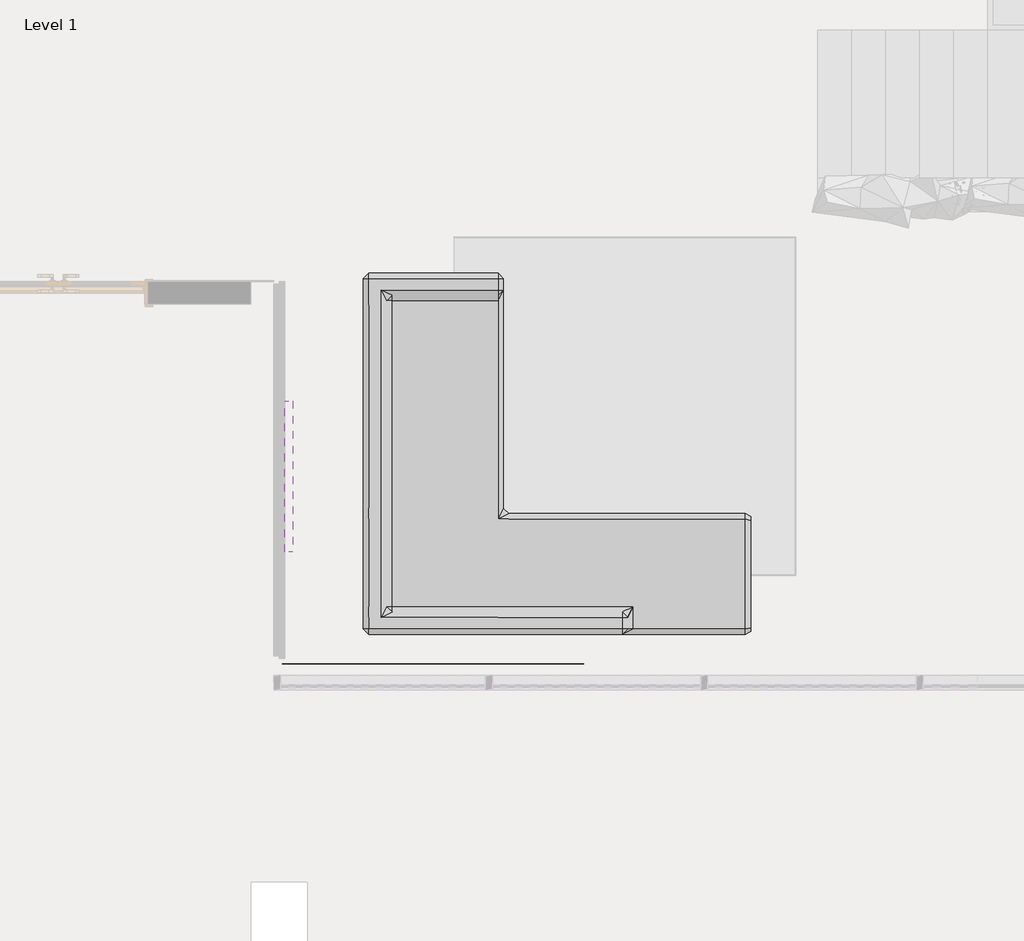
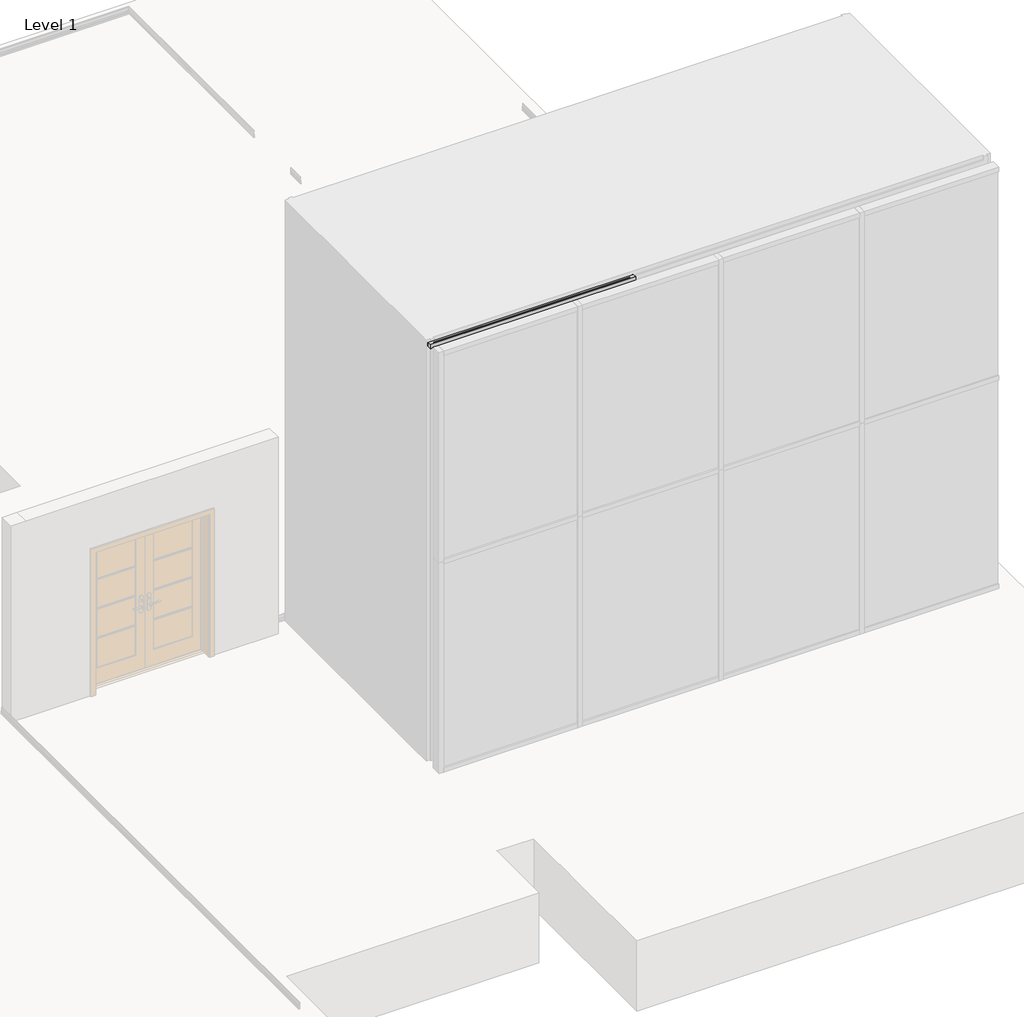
# One storey, part 4 of 6: 3 geographic elements.
"""IFC4 building model written with IfcOpenShell, lengths in millimetres."""

from ifc_helpers import new_model, si_unit, origin, place, context, project, spatial, transform, mapped, element, save
from components import enscape_assetdefinition_curtain_001_enscape_assetdefinition_2034166f, enscape_assetdefinition_framed_picture_003_enscape_f1a1e88f, enscape_assetdefinition_sofa_039_l_shape_enscape_ea6e479c

model = new_model("IFC4")

# Units and contexts
model_context = context("Model", 3, world=origin())
ifc_project = project(units=[si_unit("LENGTHUNIT", "METRE", prefix="MILLI")], contexts=[model_context])

# Site, building, storey
site = spatial("IfcSite", under=ifc_project)
building = spatial("IfcBuilding", under=site)
storey = spatial("IfcBuildingStorey", under=building, Name="Level 1", Elevation=1000.0)

# Geographic elements
placement = place(None, origin())
enscape_assetdefinition_curtain_001_enscape_assetdefinition_shape = enscape_assetdefinition_curtain_001_enscape_assetdefinition_2034166f(model_context)
element("IfcGeographicElement", 1, ObjectType="Enscape AssetDefinition - Curtain 001 : Enscape AssetDefinition - Curtain 001 2", at=placement, inside=storey, context=model_context, shape_type="MappedRepresentation", body=[
    mapped(enscape_assetdefinition_curtain_001_enscape_assetdefinition_shape, transform((18343.1337784, 2134.720421, 1000.0), x_axis=(1.0, 0.0, 0.0), y_axis=(0.0, 1.0, 0.0), z_axis=(0.0, 0.0, 1.0))),
])
enscape_assetdefinition_framed_picture_003_enscape_shape = enscape_assetdefinition_framed_picture_003_enscape_f1a1e88f(model_context)
element("IfcGeographicElement", 2, ObjectType="Enscape AssetDefinition - Framed Picture 003 : Enscape AssetDefinition - Framed Picture 003 2", at=placement, inside=storey, context=model_context, shape_type="MappedRepresentation", body=[
    mapped(enscape_assetdefinition_framed_picture_003_enscape_shape, transform((17043.1337784, 3747.3763892, 2670.9549219), x_axis=(0.0, 1.0, 0.0), y_axis=(-1.0, 0.0, 0.0), z_axis=(0.0, 0.0, 1.0))),
])
enscape_assetdefinition_sofa_039_l_shape_enscape_shape = enscape_assetdefinition_sofa_039_l_shape_enscape_ea6e479c(model_context)
element("IfcGeographicElement", 3, ObjectType="Enscape AssetDefinition - Sofa 039 L-Shape : Enscape AssetDefinition - Sofa 039 L-Shape", at=placement, inside=storey, context=model_context, shape_type="MappedRepresentation", body=[
    mapped(enscape_assetdefinition_sofa_039_l_shape_enscape_shape, transform((19538.1337784, 3607.8321125, 1000.0), x_axis=(-1.0, 0.0, 0.0), y_axis=(0.0, -1.0, 0.0), z_axis=(0.0, 0.0, 1.0))),
])

save(model, "model.ifc")
